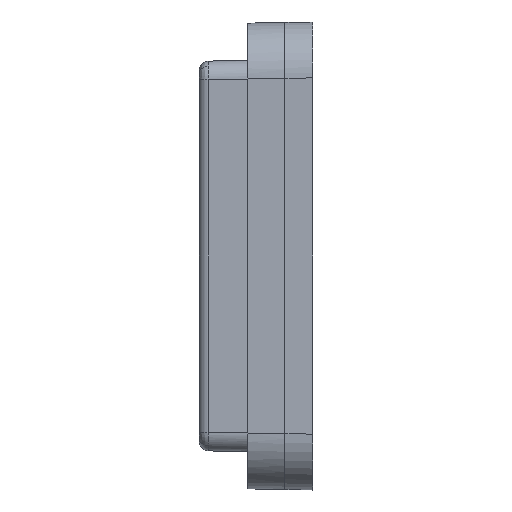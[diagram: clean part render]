
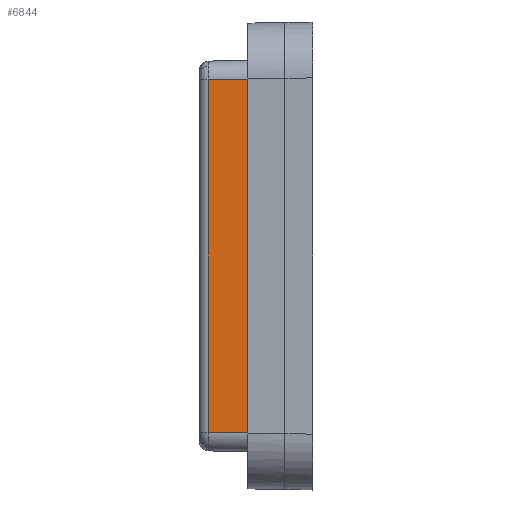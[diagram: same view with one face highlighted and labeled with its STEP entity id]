
A CAD part, left-side view. The second image highlights one B-rep face of the part: STEP entity #6844.
In plain terms, the highlighted planar face has unit normal (-1, 0.018, 0).
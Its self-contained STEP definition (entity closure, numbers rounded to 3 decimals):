
#1464 = PLANE('',#1465);
#1465 = AXIS2_PLACEMENT_3D('',#1466,#1467,#1468);
#1466 = CARTESIAN_POINT('',(37.5,3.5,12.5));
#1467 = DIRECTION('',(0.,-1.,0.));
#1468 = DIRECTION('',(0.,-0.,-1.));
#3845 = VERTEX_POINT('',#3846);
#3846 = CARTESIAN_POINT('',(-25.5,3.5,9.5));
#3862 = CYLINDRICAL_SURFACE('',#3863,1.);
#3863 = AXIS2_PLACEMENT_3D('',#3864,#3865,#3866);
#3864 = CARTESIAN_POINT('',(-24.5,3.465,
    9.5));
#3865 = DIRECTION('',(-0.017,-1.,
    0.017));
#3866 = DIRECTION('',(0.,-0.017,
    -1.));
#3896 = EDGE_CURVE('',#3897,#3845,#3899,.T.);
#3897 = VERTEX_POINT('',#3898);
#3898 = CARTESIAN_POINT('',(-25.5,3.5,-9.5));
#3899 = SURFACE_CURVE('',#3900,(#3904,#3911),.PCURVE_S1.);
#3900 = LINE('',#3901,#3902);
#3901 = CARTESIAN_POINT('',(-25.5,3.5,12.5));
#3902 = VECTOR('',#3903,1.);
#3903 = DIRECTION('',(-0.,0.,1.));
#3904 = PCURVE('',#1464,#3905);
#3905 = DEFINITIONAL_REPRESENTATION('',(#3906),#3910);
#3906 = LINE('',#3907,#3908);
#3907 = CARTESIAN_POINT('',(-0.,-63.));
#3908 = VECTOR('',#3909,1.);
#3909 = DIRECTION('',(-1.,0.));
#3910 = ( GEOMETRIC_REPRESENTATION_CONTEXT(2) 
PARAMETRIC_REPRESENTATION_CONTEXT() REPRESENTATION_CONTEXT('2D SPACE',''
  ) );
#3911 = PCURVE('',#3912,#3917);
#3912 = PLANE('',#3913);
#3913 = AXIS2_PLACEMENT_3D('',#3914,#3915,#3916);
#3914 = CARTESIAN_POINT('',(-25.5,3.5,-10.5));
#3915 = DIRECTION('',(-1.,0.017,0.));
#3916 = DIRECTION('',(-0.017,-1.,0.));
#3917 = DEFINITIONAL_REPRESENTATION('',(#3918),#3922);
#3918 = LINE('',#3919,#3920);
#3919 = CARTESIAN_POINT('',(0.,23.));
#3920 = VECTOR('',#3921,1.);
#3921 = DIRECTION('',(0.,1.));
#3922 = ( GEOMETRIC_REPRESENTATION_CONTEXT(2) 
PARAMETRIC_REPRESENTATION_CONTEXT() REPRESENTATION_CONTEXT('2D SPACE',''
  ) );
#3942 = CYLINDRICAL_SURFACE('',#3943,1.);
#3943 = AXIS2_PLACEMENT_3D('',#3944,#3945,#3946);
#3944 = CARTESIAN_POINT('',(-24.5,3.465,
    -9.5));
#3945 = DIRECTION('',(-0.017,-1.,
    -0.017));
#3946 = DIRECTION('',(0.,0.017,
    -1.));
#6656 = EDGE_CURVE('',#3845,#6657,#6659,.T.);
#6657 = VERTEX_POINT('',#6658);
#6658 = CARTESIAN_POINT('',(-25.463,5.609,9.463
    ));
#6659 = SURFACE_CURVE('',#6660,(#6664,#6671),.PCURVE_S1.);
#6660 = LINE('',#6661,#6662);
#6661 = CARTESIAN_POINT('',(-25.5,3.5,9.5));
#6662 = VECTOR('',#6663,1.);
#6663 = DIRECTION('',(0.017,1.,
    -0.017));
#6664 = PCURVE('',#3862,#6665);
#6665 = DEFINITIONAL_REPRESENTATION('',(#6666),#6670);
#6666 = LINE('',#6667,#6668);
#6667 = CARTESIAN_POINT('',(4.712,-0.017));
#6668 = VECTOR('',#6669,1.);
#6669 = DIRECTION('',(0.,-1.));
#6670 = ( GEOMETRIC_REPRESENTATION_CONTEXT(2) 
PARAMETRIC_REPRESENTATION_CONTEXT() REPRESENTATION_CONTEXT('2D SPACE',''
  ) );
#6671 = PCURVE('',#3912,#6672);
#6672 = DEFINITIONAL_REPRESENTATION('',(#6673),#6677);
#6673 = LINE('',#6674,#6675);
#6674 = CARTESIAN_POINT('',(0.,20.));
#6675 = VECTOR('',#6676,1.);
#6676 = DIRECTION('',(-1.,-0.017));
#6677 = ( GEOMETRIC_REPRESENTATION_CONTEXT(2) 
PARAMETRIC_REPRESENTATION_CONTEXT() REPRESENTATION_CONTEXT('2D SPACE',''
  ) );
#6844 = ADVANCED_FACE('',(#6845),#3912,.T.);
#6845 = FACE_BOUND('',#6846,.T.);
#6846 = EDGE_LOOP('',(#6847,#6870,#6871,#6872));
#6847 = ORIENTED_EDGE('',*,*,#6848,.T.);
#6848 = EDGE_CURVE('',#6849,#3897,#6851,.T.);
#6849 = VERTEX_POINT('',#6850);
#6850 = CARTESIAN_POINT('',(-25.463,5.609,
    -9.463));
#6851 = SURFACE_CURVE('',#6852,(#6856,#6863),.PCURVE_S1.);
#6852 = LINE('',#6853,#6854);
#6853 = CARTESIAN_POINT('',(-25.463,5.609,
    -9.463));
#6854 = VECTOR('',#6855,1.);
#6855 = DIRECTION('',(-0.017,-1.,
    -0.017));
#6856 = PCURVE('',#3912,#6857);
#6857 = DEFINITIONAL_REPRESENTATION('',(#6858),#6862);
#6858 = LINE('',#6859,#6860);
#6859 = CARTESIAN_POINT('',(-2.109,1.037));
#6860 = VECTOR('',#6861,1.);
#6861 = DIRECTION('',(1.,-0.017));
#6862 = ( GEOMETRIC_REPRESENTATION_CONTEXT(2) 
PARAMETRIC_REPRESENTATION_CONTEXT() REPRESENTATION_CONTEXT('2D SPACE',''
  ) );
#6863 = PCURVE('',#3942,#6864);
#6864 = DEFINITIONAL_REPRESENTATION('',(#6865),#6869);
#6865 = LINE('',#6866,#6867);
#6866 = CARTESIAN_POINT('',(4.713,-2.127));
#6867 = VECTOR('',#6868,1.);
#6868 = DIRECTION('',(0.,1.));
#6869 = ( GEOMETRIC_REPRESENTATION_CONTEXT(2) 
PARAMETRIC_REPRESENTATION_CONTEXT() REPRESENTATION_CONTEXT('2D SPACE',''
  ) );
#6870 = ORIENTED_EDGE('',*,*,#3896,.T.);
#6871 = ORIENTED_EDGE('',*,*,#6656,.T.);
#6872 = ORIENTED_EDGE('',*,*,#6873,.T.);
#6873 = EDGE_CURVE('',#6657,#6849,#6874,.T.);
#6874 = SURFACE_CURVE('',#6875,(#6879,#6886),.PCURVE_S1.);
#6875 = LINE('',#6876,#6877);
#6876 = CARTESIAN_POINT('',(-25.463,5.609,-10.5));
#6877 = VECTOR('',#6878,1.);
#6878 = DIRECTION('',(-0.,-0.,-1.));
#6879 = PCURVE('',#3912,#6880);
#6880 = DEFINITIONAL_REPRESENTATION('',(#6881),#6885);
#6881 = LINE('',#6882,#6883);
#6882 = CARTESIAN_POINT('',(-2.109,0.));
#6883 = VECTOR('',#6884,1.);
#6884 = DIRECTION('',(0.,-1.));
#6885 = ( GEOMETRIC_REPRESENTATION_CONTEXT(2) 
PARAMETRIC_REPRESENTATION_CONTEXT() REPRESENTATION_CONTEXT('2D SPACE',''
  ) );
#6886 = PCURVE('',#6887,#6892);
#6887 = CYLINDRICAL_SURFACE('',#6888,0.5);
#6888 = AXIS2_PLACEMENT_3D('',#6889,#6890,#6891);
#6889 = CARTESIAN_POINT('',(-24.963,5.6,-10.5));
#6890 = DIRECTION('',(0.,0.,1.));
#6891 = DIRECTION('',(1.,0.,-0.));
#6892 = DEFINITIONAL_REPRESENTATION('',(#6893),#6897);
#6893 = LINE('',#6894,#6895);
#6894 = CARTESIAN_POINT('',(3.124,0.));
#6895 = VECTOR('',#6896,1.);
#6896 = DIRECTION('',(0.,-1.));
#6897 = ( GEOMETRIC_REPRESENTATION_CONTEXT(2) 
PARAMETRIC_REPRESENTATION_CONTEXT() REPRESENTATION_CONTEXT('2D SPACE',''
  ) );
